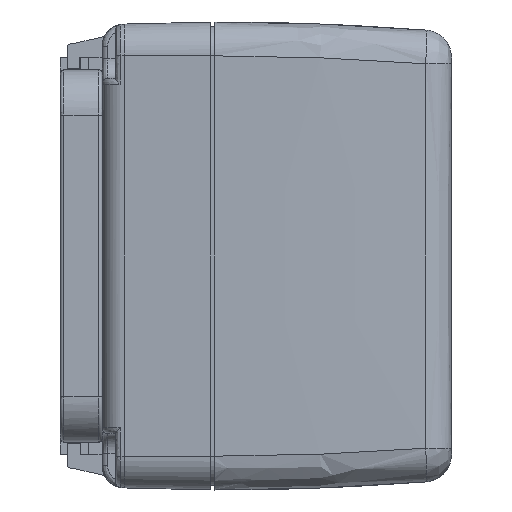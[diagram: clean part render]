
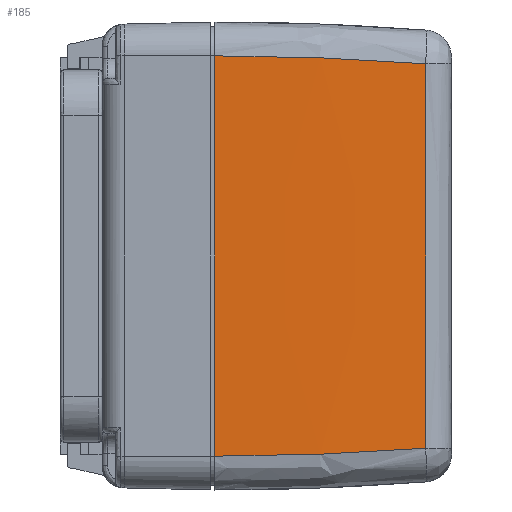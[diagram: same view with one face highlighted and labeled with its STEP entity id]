
A CAD part, left-side view. The second image highlights one B-rep face of the part: STEP entity #185.
In plain terms, the highlighted free-form (B-spline) face has degree [3, 3] with [4, 4] control points.
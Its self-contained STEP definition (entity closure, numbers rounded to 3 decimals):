
#185=ADVANCED_FACE($,(#932),#10870,.T.);
#932=FACE_OUTER_BOUND($,#1680,.T.);
#1680=EDGE_LOOP($,(#2593,#2594,#2595,#2596));
#2593=ORIENTED_EDGE($,*,*,#6719,.T.);
#2594=ORIENTED_EDGE($,*,*,#6754,.F.);
#2595=ORIENTED_EDGE($,*,*,#6756,.T.);
#2596=ORIENTED_EDGE($,*,*,#6738,.F.);
#6719=EDGE_CURVE($,#8809,#8810,#11550,.T.);
#6738=EDGE_CURVE($,#8809,#8827,#10915,.T.);
#6754=EDGE_CURVE($,#8836,#8810,#10921,.T.);
#6756=EDGE_CURVE($,#8836,#8827,#11569,.T.);
#8809=VERTEX_POINT($,#17635);
#8810=VERTEX_POINT($,#17636);
#8827=VERTEX_POINT($,#17653);
#8836=VERTEX_POINT($,#17662);
#10870=B_SPLINE_SURFACE_WITH_KNOTS($,3,3,((#16288,#16289,#16290,#16291),
(#16292,#16293,#16294,#16295),(#16296,#16297,#16298,#16299),(#16300,#16301,
#16302,#16303)),.UNSPECIFIED.,.F.,.F.,.F.,(4,4),(4,4),(0.187,
18.92),(0.711,36.267),.UNSPECIFIED.);
#10915=(
BOUNDED_CURVE()
B_SPLINE_CURVE(3,(#13873,#13874,#13875,#13876,#13877,#13878,#13879,#13880,
#13881,#13882),.UNSPECIFIED.,.F.,.F.)
B_SPLINE_CURVE_WITH_KNOTS((4,3,3,4),(-1.,-0.606,-0.248,
0.),.UNSPECIFIED.)
CURVE()
GEOMETRIC_REPRESENTATION_ITEM()
RATIONAL_B_SPLINE_CURVE((1.,1.054,1.111,1.172,
1.172,1.172,1.172,1.111,1.054,
1.))
REPRESENTATION_ITEM($)
);
#10921=(
BOUNDED_CURVE()
B_SPLINE_CURVE(3,(#14009,#14010,#14011,#14012,#14013,#14014,#14015,#14016,
#14017,#14018),.UNSPECIFIED.,.F.,.F.)
B_SPLINE_CURVE_WITH_KNOTS((4,3,3,4),(-1.,-0.67,-0.342,
0.),.UNSPECIFIED.)
CURVE()
GEOMETRIC_REPRESENTATION_ITEM()
RATIONAL_B_SPLINE_CURVE((1.,1.054,1.111,1.172,
1.172,1.172,1.172,1.111,1.054,
1.))
REPRESENTATION_ITEM($)
);
#11550=B_SPLINE_CURVE_WITH_KNOTS($,1,(#13814,#13815),.UNSPECIFIED.,.F.,.F.,
(2,2),(0.,35.5),.UNSPECIFIED.);
#11569=B_SPLINE_CURVE_WITH_KNOTS($,3,(#14029,#14030,#14031,#14032),.UNSPECIFIED.,
.F.,.F.,(4,4),(0.,1.),.UNSPECIFIED.);
#13814=CARTESIAN_POINT($,(-62.095,1.647,16.801));
#13815=CARTESIAN_POINT($,(-62.095,1.647,-18.699));
#13873=CARTESIAN_POINT($,(-62.095,1.647,16.801));
#13874=CARTESIAN_POINT($,(-62.095,-0.81,16.801));
#13875=CARTESIAN_POINT($,(-62.058,-3.268,16.764));
#13876=CARTESIAN_POINT($,(-61.984,-5.723,16.692));
#13877=CARTESIAN_POINT($,(-61.917,-7.959,16.625));
#13878=CARTESIAN_POINT($,(-61.819,-10.193,16.529));
#13879=CARTESIAN_POINT($,(-61.691,-12.423,16.402));
#13880=CARTESIAN_POINT($,(-61.603,-13.965,16.315));
#13881=CARTESIAN_POINT($,(-61.5,-15.505,16.213));
#13882=CARTESIAN_POINT($,(-61.382,-17.043,16.097));
#14009=CARTESIAN_POINT($,(-61.382,-17.043,-17.995));
#14010=CARTESIAN_POINT($,(-61.539,-14.994,-18.15));
#14011=CARTESIAN_POINT($,(-61.67,-12.941,-18.279));
#14012=CARTESIAN_POINT($,(-61.775,-10.886,-18.383));
#14013=CARTESIAN_POINT($,(-61.879,-8.845,-18.486));
#14014=CARTESIAN_POINT($,(-61.958,-6.801,-18.564));
#14015=CARTESIAN_POINT($,(-62.011,-4.755,-18.617));
#14016=CARTESIAN_POINT($,(-62.067,-2.622,-18.672));
#14017=CARTESIAN_POINT($,(-62.095,-0.487,-18.699));
#14018=CARTESIAN_POINT($,(-62.095,1.647,-18.699));
#14029=CARTESIAN_POINT($,(-61.382,-17.043,-17.995));
#14030=CARTESIAN_POINT($,(-61.382,-17.041,-6.667));
#14031=CARTESIAN_POINT($,(-61.382,-17.041,4.769));
#14032=CARTESIAN_POINT($,(-61.382,-17.043,16.097));
#16288=CARTESIAN_POINT($,(-62.095,1.647,-18.699));
#16289=CARTESIAN_POINT($,(-62.095,1.647,-6.866));
#16290=CARTESIAN_POINT($,(-62.095,1.647,4.967));
#16291=CARTESIAN_POINT($,(-62.095,1.647,16.801));
#16292=CARTESIAN_POINT($,(-62.095,-4.592,-18.73));
#16293=CARTESIAN_POINT($,(-62.095,-4.586,-6.987));
#16294=CARTESIAN_POINT($,(-62.095,-4.586,5.089));
#16295=CARTESIAN_POINT($,(-62.095,-4.592,16.831));
#16296=CARTESIAN_POINT($,(-61.857,-10.822,-18.53));
#16297=CARTESIAN_POINT($,(-61.857,-10.816,-6.933));
#16298=CARTESIAN_POINT($,(-61.857,-10.816,5.035));
#16299=CARTESIAN_POINT($,(-61.857,-10.822,16.632));
#16300=CARTESIAN_POINT($,(-61.382,-17.043,-18.1));
#16301=CARTESIAN_POINT($,(-61.382,-17.041,-6.703));
#16302=CARTESIAN_POINT($,(-61.382,-17.041,4.804));
#16303=CARTESIAN_POINT($,(-61.382,-17.043,16.201));
#17635=CARTESIAN_POINT($,(-62.095,1.647,16.801));
#17636=CARTESIAN_POINT($,(-62.095,1.647,-18.699));
#17653=CARTESIAN_POINT($,(-61.382,-17.043,16.097));
#17662=CARTESIAN_POINT($,(-61.382,-17.043,-17.995));
